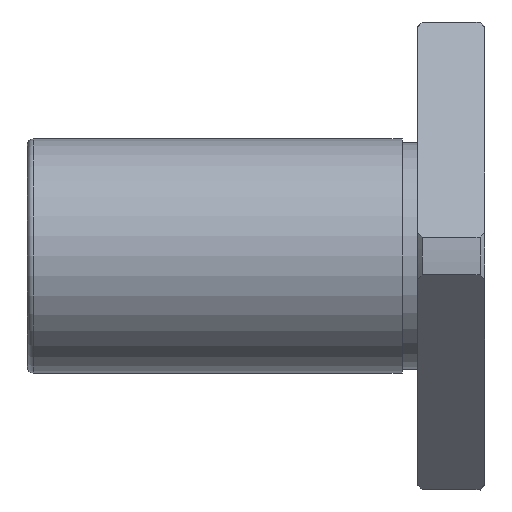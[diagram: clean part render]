
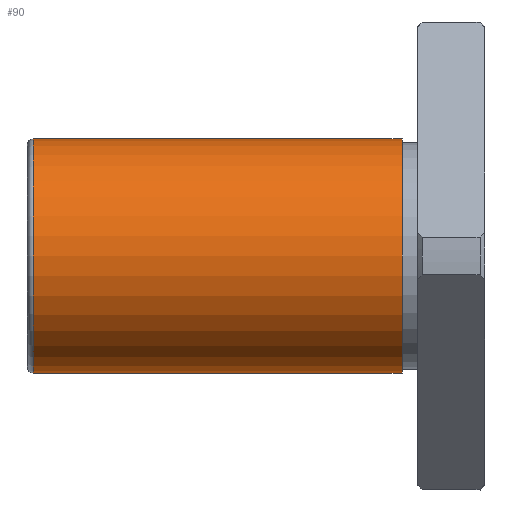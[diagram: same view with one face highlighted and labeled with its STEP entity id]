
A CAD part, front view. The second image highlights one B-rep face of the part: STEP entity #90.
In plain terms, the highlighted cylindrical face has radius 10.5 mm (diameter 21 mm), a full revolution.
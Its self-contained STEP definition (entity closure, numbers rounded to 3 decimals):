
#90=ADVANCED_FACE('',(#153,#154),#155,.T.);
#153=FACE_OUTER_BOUND('',#253,.T.);
#154=FACE_OUTER_BOUND('',#254,.T.);
#155=CYLINDRICAL_SURFACE('',#255,10.5);
#253=EDGE_LOOP('',(#426));
#254=EDGE_LOOP('',(#427));
#255=AXIS2_PLACEMENT_3D('',#428,#429,#430);
#426=ORIENTED_EDGE('',*,*,#616,.T.);
#427=ORIENTED_EDGE('',*,*,#617,.T.);
#428=CARTESIAN_POINT('',(-18.45,0.0,0.));
#429=DIRECTION('',(-1.0,-0.0,0.));
#430=DIRECTION('',(0.0,1.0,0.0));
#616=EDGE_CURVE('',#731,#731,#732,.F.);
#617=EDGE_CURVE('',#733,#733,#734,.T.);
#731=VERTEX_POINT('',#1005);
#732=CIRCLE('',#1006,10.5);
#733=VERTEX_POINT('',#1007);
#734=CIRCLE('',#1008,10.5);
#1005=CARTESIAN_POINT('',(-40.5,0.,10.5));
#1006=AXIS2_PLACEMENT_3D('',#1136,#1137,#1138);
#1007=CARTESIAN_POINT('',(-7.4,10.5,0.0));
#1008=AXIS2_PLACEMENT_3D('',#1139,#1140,#1141);
#1136=CARTESIAN_POINT('',(-40.5,0.0,0.));
#1137=DIRECTION('',(-1.0,0.0,0.));
#1138=DIRECTION('',(0.,0.0,1.0));
#1139=CARTESIAN_POINT('',(-7.4,0.0,0.0));
#1140=DIRECTION('',(-1.0,0.0,0.));
#1141=DIRECTION('',(0.0,1.0,0.0));
